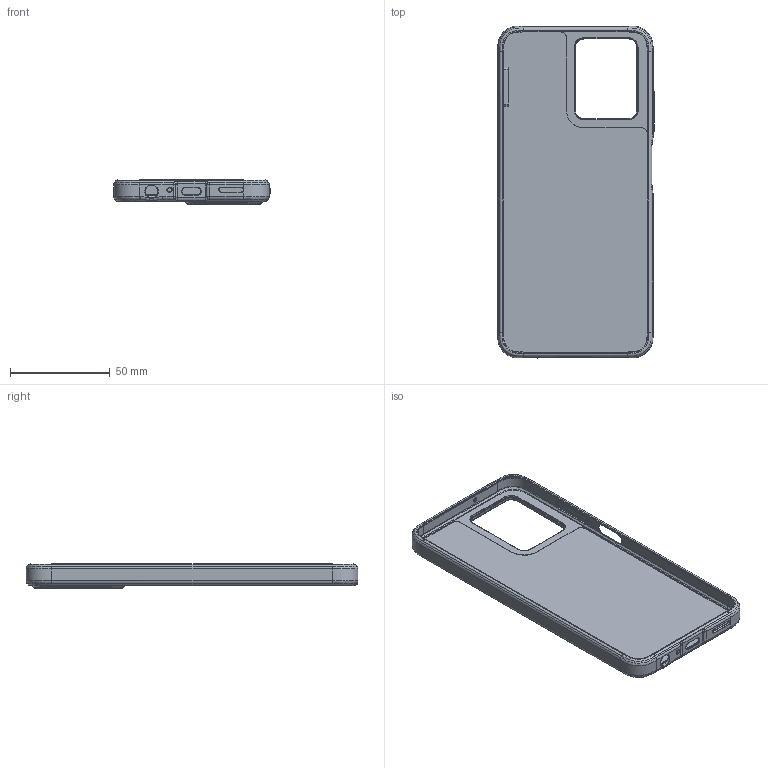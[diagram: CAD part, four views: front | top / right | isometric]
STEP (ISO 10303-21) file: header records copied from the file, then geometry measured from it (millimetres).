
FILE_DESCRIPTION(/* description */ (''),/* implementation_level */ '2;1');
FILE_NAME(/* name */ 'NIGHTH~2',/* time_stamp */ '2024-09-04T13:39:13+03:00',/* author */ (''),/* organization */ (''),/* preprocessor_version */ 'ST-DEVELOPER v16.5',/* originating_system */ '',/* authorisation */ '');
FILE_SCHEMA (('AUTOMOTIVE_DESIGN'));
Length unit declared in the file: millimetre
Products named in the file (4): Document; OUT_COVER_PC_PMMA; OUT_COVER_TPU; SIM_TRAY
Assembly tree (3 placements, depth 2):
  Document
    OUT_COVER_PC_PMMA
    OUT_COVER_TPU
    SIM_TRAY
Bounding box: 78.7 x 166.75 x 12.06 mm (x, y, z)
Volume: 23488.6 mm3; surface area: 36206.4 mm2
Topology: 3 solids, 3 shells, 627 faces, 1457 edges, 840 vertices
Faces by surface type: bspline 465, plane 162
Entity records: 50155 total; most frequent: CARTESIAN_POINT 41375, ORIENTED_EDGE 2914, EDGE_CURVE 1457, B_SPLINE_CURVE_WITH_KNOTS 949, VERTEX_POINT 840, EDGE_LOOP 647, ADVANCED_FACE 627, FACE_OUTER_BOUND 627
